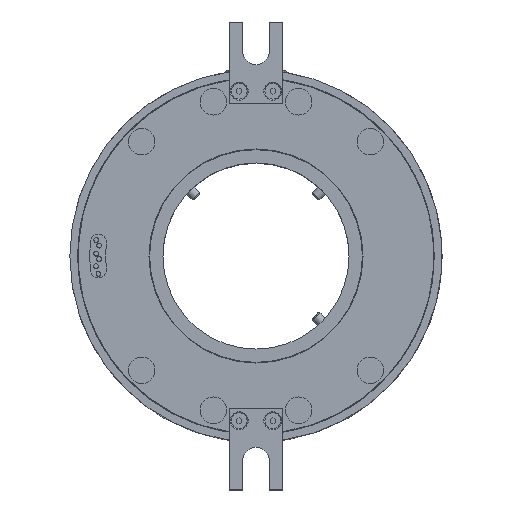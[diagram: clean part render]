
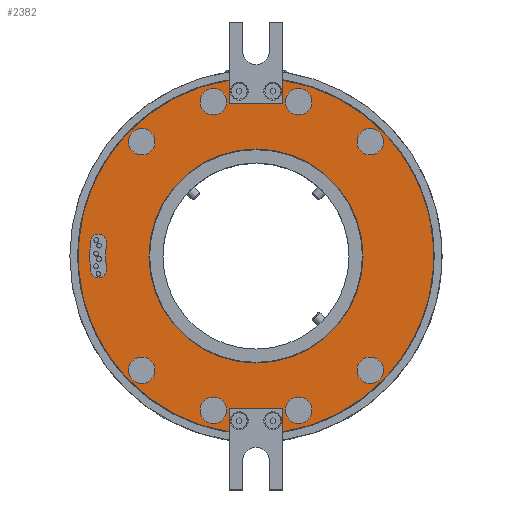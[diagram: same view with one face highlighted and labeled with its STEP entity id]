
A CAD part, top view. The second image highlights one B-rep face of the part: STEP entity #2382.
In plain terms, the highlighted planar face has unit normal (0, 0, 1).
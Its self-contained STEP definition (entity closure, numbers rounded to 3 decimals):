
#171=FACE_BOUND('',#4210,.T.);
#172=FACE_BOUND('',#4211,.T.);
#173=FACE_BOUND('',#4212,.T.);
#174=FACE_BOUND('',#4213,.T.);
#175=FACE_BOUND('',#4214,.T.);
#176=FACE_BOUND('',#4215,.T.);
#177=FACE_BOUND('',#4216,.T.);
#178=FACE_BOUND('',#4217,.T.);
#179=FACE_BOUND('',#4218,.T.);
#180=FACE_BOUND('',#4219,.T.);
#181=FACE_BOUND('',#4220,.T.);
#488=CIRCLE('',#14079,5.);
#489=CIRCLE('',#14080,5.);
#490=CIRCLE('',#14081,5.);
#491=CIRCLE('',#14082,5.);
#492=CIRCLE('',#14083,5.);
#493=CIRCLE('',#14084,5.);
#494=CIRCLE('',#14085,5.);
#495=CIRCLE('',#14086,5.);
#496=CIRCLE('',#14087,66.9);
#497=CIRCLE('',#14088,66.9);
#498=CIRCLE('',#14089,40.25);
#499=CIRCLE('',#14090,62.5);
#500=CIRCLE('',#14091,3.);
#501=CIRCLE('',#14092,56.5);
#502=CIRCLE('',#14093,3.);
#1049=LINE('',#25387,#1637);
#1050=LINE('',#25390,#1638);
#1051=LINE('',#25392,#1639);
#1052=LINE('',#25396,#1640);
#1053=LINE('',#25398,#1641);
#1054=LINE('',#25400,#1642);
#1637=VECTOR('',#15468,1.);
#1638=VECTOR('',#15469,1.);
#1639=VECTOR('',#15470,1.);
#1640=VECTOR('',#15473,1.);
#1641=VECTOR('',#15474,1.);
#1642=VECTOR('',#15475,1.);
#2382=ADVANCED_FACE('',(#171,#172,#173,#174,#175,#176,#177,#178,#179,#180,
#181),#2932,.T.);
#2932=PLANE('',#14094);
#4210=EDGE_LOOP('',(#6505));
#4211=EDGE_LOOP('',(#6506));
#4212=EDGE_LOOP('',(#6507));
#4213=EDGE_LOOP('',(#6508));
#4214=EDGE_LOOP('',(#6509));
#4215=EDGE_LOOP('',(#6510));
#4216=EDGE_LOOP('',(#6511));
#4217=EDGE_LOOP('',(#6512));
#4218=EDGE_LOOP('',(#6513,#6514,#6515,#6516,#6517,#6518,#6519,#6520));
#4219=EDGE_LOOP('',(#6521));
#4220=EDGE_LOOP('',(#6522,#6523,#6524,#6525));
#6505=ORIENTED_EDGE('',*,*,#11395,.T.);
#6506=ORIENTED_EDGE('',*,*,#11396,.T.);
#6507=ORIENTED_EDGE('',*,*,#11397,.T.);
#6508=ORIENTED_EDGE('',*,*,#11398,.T.);
#6509=ORIENTED_EDGE('',*,*,#11399,.T.);
#6510=ORIENTED_EDGE('',*,*,#11400,.T.);
#6511=ORIENTED_EDGE('',*,*,#11401,.T.);
#6512=ORIENTED_EDGE('',*,*,#11402,.T.);
#6513=ORIENTED_EDGE('',*,*,#11403,.F.);
#6514=ORIENTED_EDGE('',*,*,#11404,.F.);
#6515=ORIENTED_EDGE('',*,*,#11405,.F.);
#6516=ORIENTED_EDGE('',*,*,#11406,.F.);
#6517=ORIENTED_EDGE('',*,*,#11407,.F.);
#6518=ORIENTED_EDGE('',*,*,#11408,.F.);
#6519=ORIENTED_EDGE('',*,*,#11409,.F.);
#6520=ORIENTED_EDGE('',*,*,#11410,.F.);
#6521=ORIENTED_EDGE('',*,*,#11411,.F.);
#6522=ORIENTED_EDGE('',*,*,#11412,.T.);
#6523=ORIENTED_EDGE('',*,*,#11413,.T.);
#6524=ORIENTED_EDGE('',*,*,#11414,.F.);
#6525=ORIENTED_EDGE('',*,*,#11415,.T.);
#9631=VERTEX_POINT('',#25372);
#9632=VERTEX_POINT('',#25374);
#9633=VERTEX_POINT('',#25376);
#9634=VERTEX_POINT('',#25378);
#9635=VERTEX_POINT('',#25380);
#9636=VERTEX_POINT('',#25382);
#9637=VERTEX_POINT('',#25384);
#9638=VERTEX_POINT('',#25386);
#9639=VERTEX_POINT('',#25388);
#9640=VERTEX_POINT('',#25389);
#9641=VERTEX_POINT('',#25391);
#9642=VERTEX_POINT('',#25393);
#9643=VERTEX_POINT('',#25395);
#9644=VERTEX_POINT('',#25397);
#9645=VERTEX_POINT('',#25399);
#9646=VERTEX_POINT('',#25401);
#9647=VERTEX_POINT('',#25404);
#9648=VERTEX_POINT('',#25406);
#9649=VERTEX_POINT('',#25407);
#9650=VERTEX_POINT('',#25409);
#9651=VERTEX_POINT('',#25411);
#11395=EDGE_CURVE('',#9631,#9631,#488,.T.);
#11396=EDGE_CURVE('',#9632,#9632,#489,.T.);
#11397=EDGE_CURVE('',#9633,#9633,#490,.T.);
#11398=EDGE_CURVE('',#9634,#9634,#491,.T.);
#11399=EDGE_CURVE('',#9635,#9635,#492,.T.);
#11400=EDGE_CURVE('',#9636,#9636,#493,.T.);
#11401=EDGE_CURVE('',#9637,#9637,#494,.T.);
#11402=EDGE_CURVE('',#9638,#9638,#495,.T.);
#11403=EDGE_CURVE('',#9639,#9640,#1049,.T.);
#11404=EDGE_CURVE('',#9641,#9639,#1050,.T.);
#11405=EDGE_CURVE('',#9642,#9641,#1051,.T.);
#11406=EDGE_CURVE('',#9643,#9642,#496,.T.);
#11407=EDGE_CURVE('',#9644,#9643,#1052,.T.);
#11408=EDGE_CURVE('',#9645,#9644,#1053,.T.);
#11409=EDGE_CURVE('',#9646,#9645,#1054,.T.);
#11410=EDGE_CURVE('',#9640,#9646,#497,.T.);
#11411=EDGE_CURVE('',#9647,#9647,#498,.T.);
#11412=EDGE_CURVE('',#9648,#9649,#499,.T.);
#11413=EDGE_CURVE('',#9649,#9650,#500,.T.);
#11414=EDGE_CURVE('',#9651,#9650,#501,.T.);
#11415=EDGE_CURVE('',#9651,#9648,#502,.T.);
#14079=AXIS2_PLACEMENT_3D('',#25371,#15452,#15453);
#14080=AXIS2_PLACEMENT_3D('',#25373,#15454,#15455);
#14081=AXIS2_PLACEMENT_3D('',#25375,#15456,#15457);
#14082=AXIS2_PLACEMENT_3D('',#25377,#15458,#15459);
#14083=AXIS2_PLACEMENT_3D('',#25379,#15460,#15461);
#14084=AXIS2_PLACEMENT_3D('',#25381,#15462,#15463);
#14085=AXIS2_PLACEMENT_3D('',#25383,#15464,#15465);
#14086=AXIS2_PLACEMENT_3D('',#25385,#15466,#15467);
#14087=AXIS2_PLACEMENT_3D('',#25394,#15471,#15472);
#14088=AXIS2_PLACEMENT_3D('',#25402,#15476,#15477);
#14089=AXIS2_PLACEMENT_3D('',#25403,#15478,#15479);
#14090=AXIS2_PLACEMENT_3D('',#25405,#15480,#15481);
#14091=AXIS2_PLACEMENT_3D('',#25408,#15482,#15483);
#14092=AXIS2_PLACEMENT_3D('',#25410,#15484,#15485);
#14093=AXIS2_PLACEMENT_3D('',#25412,#15486,#15487);
#14094=AXIS2_PLACEMENT_3D('',#25413,#15488,#15489);
#15452=DIRECTION('',(0.,0.,-1.));
#15453=DIRECTION('',(-1.,0.,0.));
#15454=DIRECTION('',(0.,0.,-1.));
#15455=DIRECTION('',(-1.,0.,0.));
#15456=DIRECTION('',(0.,0.,-1.));
#15457=DIRECTION('',(-1.,0.,0.));
#15458=DIRECTION('',(0.,0.,-1.));
#15459=DIRECTION('',(-1.,0.,0.));
#15460=DIRECTION('',(0.,0.,-1.));
#15461=DIRECTION('',(-1.,0.,0.));
#15462=DIRECTION('',(0.,0.,-1.));
#15463=DIRECTION('',(-1.,0.,0.));
#15464=DIRECTION('',(0.,0.,-1.));
#15465=DIRECTION('',(-1.,0.,0.));
#15466=DIRECTION('',(0.,0.,-1.));
#15467=DIRECTION('',(-1.,0.,0.));
#15468=DIRECTION('',(0.,-1.,0.));
#15469=DIRECTION('',(-1.,0.,0.));
#15470=DIRECTION('',(0.,1.,0.));
#15471=DIRECTION('',(0.,0.,-1.));
#15472=DIRECTION('',(1.,0.,0.));
#15473=DIRECTION('',(0.,1.,0.));
#15474=DIRECTION('',(1.,0.,0.));
#15475=DIRECTION('',(0.,-1.,0.));
#15476=DIRECTION('',(0.,0.,-1.));
#15477=DIRECTION('',(1.,0.,0.));
#15478=DIRECTION('',(0.,0.,1.));
#15479=DIRECTION('',(1.,0.,0.));
#15480=DIRECTION('',(0.,0.,-1.));
#15481=DIRECTION('',(1.,0.,0.));
#15482=DIRECTION('',(0.,0.,-1.));
#15483=DIRECTION('',(0.996,-0.087,0.));
#15484=DIRECTION('',(0.,0.,-1.));
#15485=DIRECTION('',(1.,0.,0.));
#15486=DIRECTION('',(0.,0.,-1.));
#15487=DIRECTION('',(0.996,0.087,0.));
#15488=DIRECTION('',(0.,0.,1.));
#15489=DIRECTION('',(1.,0.,0.));
#25371=CARTESIAN_POINT('',(-16.,58.,87.5));
#25372=CARTESIAN_POINT('',(-21.,58.,87.5));
#25373=CARTESIAN_POINT('',(16.,58.,87.5));
#25374=CARTESIAN_POINT('',(11.,58.,87.5));
#25375=CARTESIAN_POINT('',(43.,43.,87.5));
#25376=CARTESIAN_POINT('',(38.,43.,87.5));
#25377=CARTESIAN_POINT('',(-43.,43.,87.5));
#25378=CARTESIAN_POINT('',(-48.,43.,87.5));
#25379=CARTESIAN_POINT('',(-43.,-43.,87.5));
#25380=CARTESIAN_POINT('',(-48.,-43.,87.5));
#25381=CARTESIAN_POINT('',(-16.,-58.,87.5));
#25382=CARTESIAN_POINT('',(-21.,-58.,87.5));
#25383=CARTESIAN_POINT('',(16.,-58.,87.5));
#25384=CARTESIAN_POINT('',(11.,-58.,87.5));
#25385=CARTESIAN_POINT('',(43.,-43.,87.5));
#25386=CARTESIAN_POINT('',(38.,-43.,87.5));
#25387=CARTESIAN_POINT('',(-10.,-72.75,87.5));
#25388=CARTESIAN_POINT('',(-10.,-57.5,87.5));
#25389=CARTESIAN_POINT('',(-10.,-66.148,87.5));
#25390=CARTESIAN_POINT('',(0.,-57.5,87.5));
#25391=CARTESIAN_POINT('',(10.,-57.5,87.5));
#25392=CARTESIAN_POINT('',(10.,-72.75,87.5));
#25393=CARTESIAN_POINT('',(10.,-66.148,87.5));
#25394=CARTESIAN_POINT('',(0.,0.,87.5));
#25395=CARTESIAN_POINT('',(10.,66.148,87.5));
#25396=CARTESIAN_POINT('',(10.,72.75,87.5));
#25397=CARTESIAN_POINT('',(10.,57.5,87.5));
#25398=CARTESIAN_POINT('',(0.,57.5,87.5));
#25399=CARTESIAN_POINT('',(-10.,57.5,87.5));
#25400=CARTESIAN_POINT('',(-10.,72.75,87.5));
#25401=CARTESIAN_POINT('',(-10.,66.148,87.5));
#25402=CARTESIAN_POINT('',(0.,0.,87.5));
#25403=CARTESIAN_POINT('',(0.,0.,87.5));
#25404=CARTESIAN_POINT('',(40.25,0.,87.5));
#25405=CARTESIAN_POINT('',(0.,0.,87.5));
#25406=CARTESIAN_POINT('',(-62.262,-5.447,87.5));
#25407=CARTESIAN_POINT('',(-62.262,5.447,87.5));
#25408=CARTESIAN_POINT('',(-59.274,5.186,87.5));
#25409=CARTESIAN_POINT('',(-56.285,4.924,87.5));
#25410=CARTESIAN_POINT('',(0.,0.,87.5));
#25411=CARTESIAN_POINT('',(-56.285,-4.924,87.5));
#25412=CARTESIAN_POINT('',(-59.274,-5.186,87.5));
#25413=CARTESIAN_POINT('',(0.,0.,87.5));
